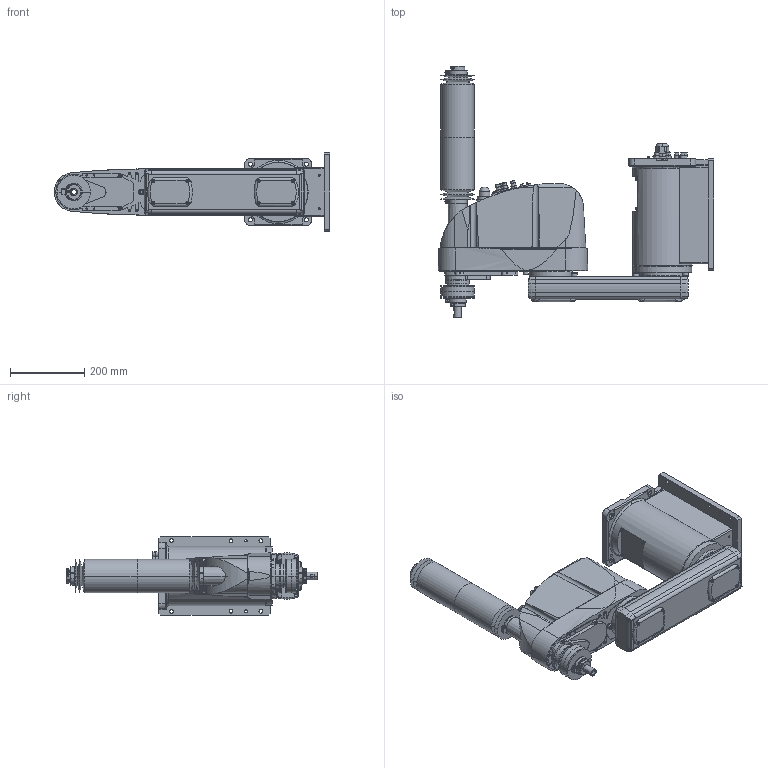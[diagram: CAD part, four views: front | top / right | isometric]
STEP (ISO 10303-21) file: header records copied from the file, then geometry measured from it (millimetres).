
FILE_DESCRIPTION( ( '' ), '1' );
FILE_NAME( '//expscmdclustefs.cadenas.external/client_exchange/iodir/jobs/output/wkb51541965_no0/STEP/G6_553CW_2_03.stp', '2012-11-23T11:18:34', ( '' ), ( '' ), ' ', ' ', ' ' );
FILE_SCHEMA( ( 'CONFIG_CONTROL_DESIGN' ) );
Length unit declared in the file: millimetre
Products named in the file (8): 1; 2; 3; 4; 5; 6; 7; 8
Bounding box: 740 x 676 x 210 mm (x, y, z)
Volume: 23255644.2 mm3; surface area: 1220616.5 mm2
Topology: 8 solids, 8 shells, 1833 faces, 4488 edges, 2870 vertices
Faces by surface type: plane 947, cylinder 614, cone 232, torus 39, sphere 1
Entity records: 57546 total; most frequent: CARTESIAN_POINT 13023, DIRECTION 9488, ORIENTED_EDGE 8924, EDGE_CURVE 4462, AXIS2_PLACEMENT_3D 3405, VERTEX_POINT 2870, LINE 2678, VECTOR 2678
